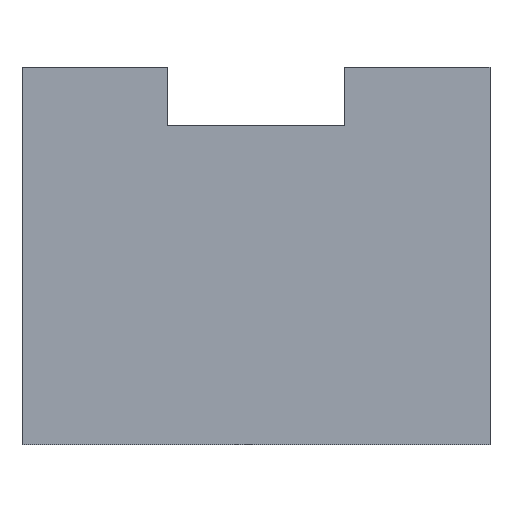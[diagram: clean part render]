
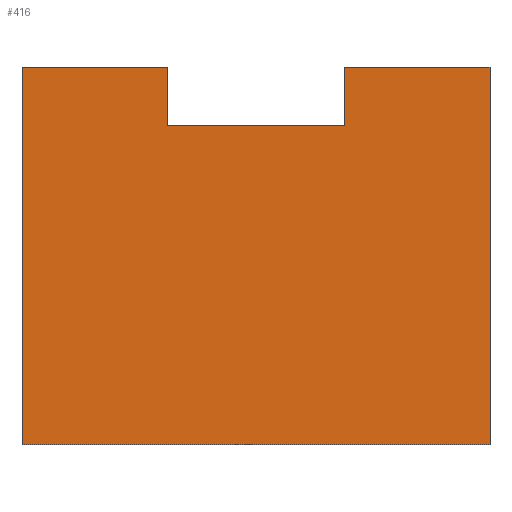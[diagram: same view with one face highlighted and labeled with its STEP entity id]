
A CAD part, left-side view. The second image highlights one B-rep face of the part: STEP entity #416.
In plain terms, the highlighted planar face has unit normal (-1, 0, 0).
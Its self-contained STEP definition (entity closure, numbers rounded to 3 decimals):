
#8 = EDGE_CURVE ( 'NONE', #127, #265, #285, .T. ) ;
#17 = EDGE_CURVE ( 'NONE', #583, #482, #784, .T. ) ;
#33 = LINE ( 'NONE', #750, #213 ) ;
#36 = ORIENTED_EDGE ( 'NONE', *, *, #430, .F. ) ;
#66 = VERTEX_POINT ( 'NONE', #712 ) ;
#72 = ORIENTED_EDGE ( 'NONE', *, *, #898, .T. ) ;
#105 = VECTOR ( 'NONE', #523, 1000. ) ;
#127 = VERTEX_POINT ( 'NONE', #442 ) ;
#133 = FACE_OUTER_BOUND ( 'NONE', #550, .T. ) ;
#150 = VERTEX_POINT ( 'NONE', #448 ) ;
#168 = CARTESIAN_POINT ( 'NONE',  ( -13., -8.3, 35.5 ) ) ;
#174 = CARTESIAN_POINT ( 'NONE',  ( -13., 22., 35.5 ) ) ;
#189 = DIRECTION ( 'NONE',  ( 0., 0., -1. ) ) ;
#209 = CARTESIAN_POINT ( 'NONE',  ( -13., 22., 23. ) ) ;
#211 = PLANE ( 'NONE',  #677 ) ;
#213 = VECTOR ( 'NONE', #926, 1000. ) ;
#246 = CARTESIAN_POINT ( 'NONE',  ( -13., 22., 0. ) ) ;
#264 = CARTESIAN_POINT ( 'NONE',  ( -13., -22., 35.5 ) ) ;
#265 = VERTEX_POINT ( 'NONE', #246 ) ;
#285 = LINE ( 'NONE', #209, #695 ) ;
#290 = EDGE_CURVE ( 'NONE', #127, #66, #552, .T. ) ;
#291 = ORIENTED_EDGE ( 'NONE', *, *, #515, .F. ) ;
#306 = ORIENTED_EDGE ( 'NONE', *, *, #683, .F. ) ;
#324 = CARTESIAN_POINT ( 'NONE',  ( -13., -8.3, 30. ) ) ;
#339 = EDGE_CURVE ( 'NONE', #150, #906, #829, .T. ) ;
#377 = VECTOR ( 'NONE', #795, 1000. ) ;
#388 = DIRECTION ( 'NONE',  ( 0., 0., -1. ) ) ;
#412 = DIRECTION ( 'NONE',  ( 0., 0., -1. ) ) ;
#414 = DIRECTION ( 'NONE',  ( 0., 0., -1. ) ) ;
#416 = ADVANCED_FACE ( 'NONE', ( #133 ), #211, .F. ) ;
#421 = LINE ( 'NONE', #710, #545 ) ;
#430 = EDGE_CURVE ( 'NONE', #514, #906, #421, .T. ) ;
#442 = CARTESIAN_POINT ( 'NONE',  ( -13., 22., 35.5 ) ) ;
#448 = CARTESIAN_POINT ( 'NONE',  ( -13., -8.3, 35.5 ) ) ;
#468 = DIRECTION ( 'NONE',  ( 0., -1., 0. ) ) ;
#482 = VERTEX_POINT ( 'NONE', #782 ) ;
#491 = VECTOR ( 'NONE', #468, 1000. ) ;
#505 = DIRECTION ( 'NONE',  ( 1., 0., 0. ) ) ;
#509 = CARTESIAN_POINT ( 'NONE',  ( -13., 8.3, 30. ) ) ;
#514 = VERTEX_POINT ( 'NONE', #509 ) ;
#515 = EDGE_CURVE ( 'NONE', #66, #514, #652, .T. ) ;
#523 = DIRECTION ( 'NONE',  ( 0., -1., 0. ) ) ;
#545 = VECTOR ( 'NONE', #576, 1000. ) ;
#550 = EDGE_LOOP ( 'NONE', ( #72, #923, #306, #849, #36, #291, #949, #860 ) ) ;
#552 = LINE ( 'NONE', #174, #491 ) ;
#576 = DIRECTION ( 'NONE',  ( 0., -1., 0. ) ) ;
#583 = VERTEX_POINT ( 'NONE', #264 ) ;
#597 = CARTESIAN_POINT ( 'NONE',  ( -13., -8.3, 35.5 ) ) ;
#630 = CARTESIAN_POINT ( 'NONE',  ( -13., -22., 23. ) ) ;
#652 = LINE ( 'NONE', #916, #887 ) ;
#677 = AXIS2_PLACEMENT_3D ( 'NONE', #848, #505, #189 ) ;
#683 = EDGE_CURVE ( 'NONE', #150, #583, #816, .T. ) ;
#695 = VECTOR ( 'NONE', #414, 1000. ) ;
#710 = CARTESIAN_POINT ( 'NONE',  ( -13., 22., 30. ) ) ;
#712 = CARTESIAN_POINT ( 'NONE',  ( -13., 8.3, 35.5 ) ) ;
#734 = VECTOR ( 'NONE', #412, 1000. ) ;
#750 = CARTESIAN_POINT ( 'NONE',  ( -13., 22., 0. ) ) ;
#782 = CARTESIAN_POINT ( 'NONE',  ( -13., -22., 0. ) ) ;
#784 = LINE ( 'NONE', #630, #377 ) ;
#795 = DIRECTION ( 'NONE',  ( 0., 0., -1. ) ) ;
#816 = LINE ( 'NONE', #597, #105 ) ;
#829 = LINE ( 'NONE', #168, #734 ) ;
#848 = CARTESIAN_POINT ( 'NONE',  ( -13., 22., 23. ) ) ;
#849 = ORIENTED_EDGE ( 'NONE', *, *, #339, .T. ) ;
#860 = ORIENTED_EDGE ( 'NONE', *, *, #8, .T. ) ;
#887 = VECTOR ( 'NONE', #388, 1000. ) ;
#898 = EDGE_CURVE ( 'NONE', #265, #482, #33, .T. ) ;
#906 = VERTEX_POINT ( 'NONE', #324 ) ;
#916 = CARTESIAN_POINT ( 'NONE',  ( -13., 8.3, 35.5 ) ) ;
#923 = ORIENTED_EDGE ( 'NONE', *, *, #17, .F. ) ;
#926 = DIRECTION ( 'NONE',  ( 0., -1., 0. ) ) ;
#949 = ORIENTED_EDGE ( 'NONE', *, *, #290, .F. ) ;
